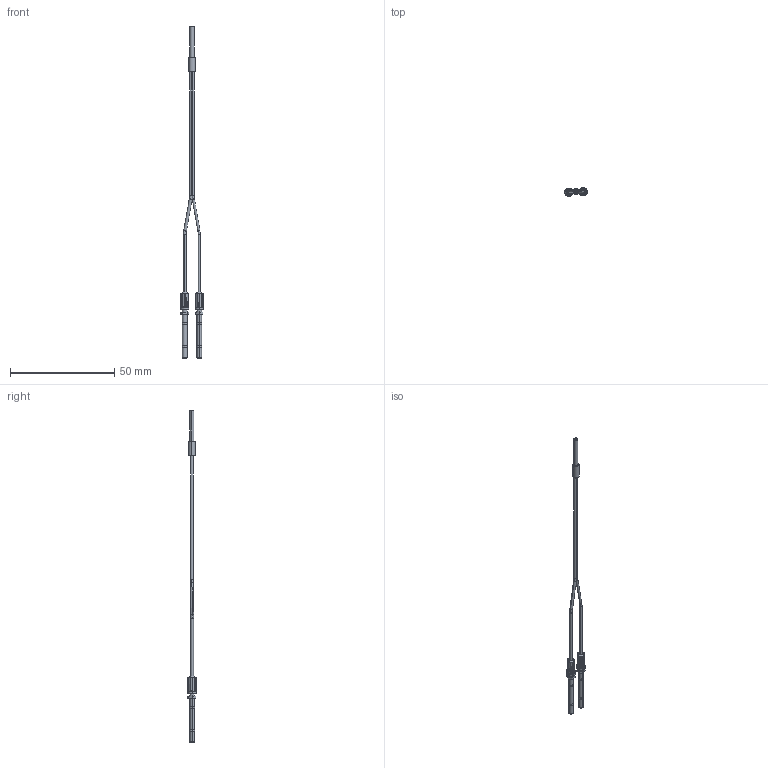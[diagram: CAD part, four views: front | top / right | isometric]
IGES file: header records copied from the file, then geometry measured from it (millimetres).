
Start section: SolidWorks IGES file using analytic representation for surfaces
Global section: file name: D:\00. WORK\04. 堡拳捞滚\堡拳捞滚 OMD\23.05.22_FDC-320-F 档搁 荐沥狼 扒\FDC-320-F.IGS,15HSolidWorks; native system: 2018; preprocessor: SolidWorks 2018; author: 10116024; date: 230525.112300; units: millimetre
Bounding box: 10.94 x 4.18 x 159.01 mm (x, y, z)
Surface area: 1914.6 mm2 (no closed solid volume)
Topology: 0 solids, 0 shells, 225 faces, 2077 edges, 2077 vertices
Faces by surface type: bspline 141, revolution 84
